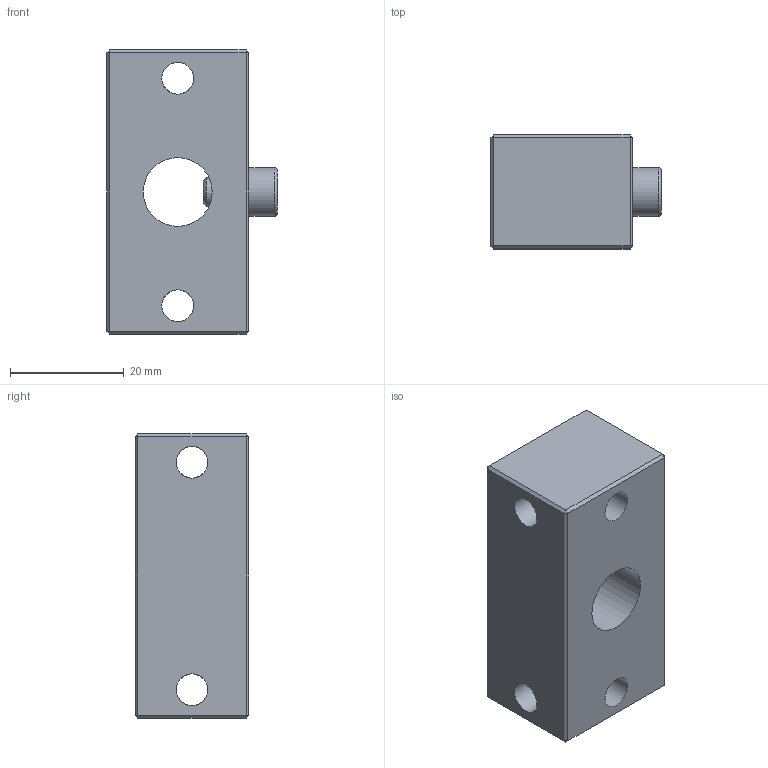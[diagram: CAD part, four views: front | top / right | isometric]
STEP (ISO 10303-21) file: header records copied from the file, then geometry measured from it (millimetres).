
FILE_DESCRIPTION((''),'2;1');
FILE_NAME('C:\Dokumente und Einstellungen\All Users\Anwendungsdaten\Autodesk\Productstream Professional 2011\AttTemp.stp','2011-12-06T10:40:13',('ss'),(''),'Autodesk Inventor 2011','Autodesk Inventor 2011','');
FILE_SCHEMA(('AUTOMOTIVE_DESIGN { 1 0 10303 214 1 1 1 1 }'));
Length unit declared in the file: millimetre
Products named in the file (3): WI-ENG-0001131; GH-ENG-0001861; DIN EN ISO 4762 M5 x 8
Assembly tree (2 placements, depth 2):
  WI-ENG-0001131
    GH-ENG-0001861
    DIN EN ISO 4762 M5 x 8
Bounding box: 30 x 20 x 50 mm (x, y, z)
Volume: 20978.8 mm3; surface area: 7512.5 mm2
Topology: 2 solids, 2 shells, 51 faces, 115 edges, 65 vertices
Faces by surface type: plane 35, cylinder 12, torus 2, cone 2
Full cylindrical faces by diameter (mm): 4.134 x1, 5 x1, 5.6 x8, 8.5 x1, 12.1 x1
Entity records: 1387 total; most frequent: CARTESIAN_POINT 253, DIRECTION 224, ORIENTED_EDGE 186, EDGE_CURVE 93, AXIS2_PLACEMENT_3D 82, EDGE_LOOP 80, VECTOR 60, LINE 60
